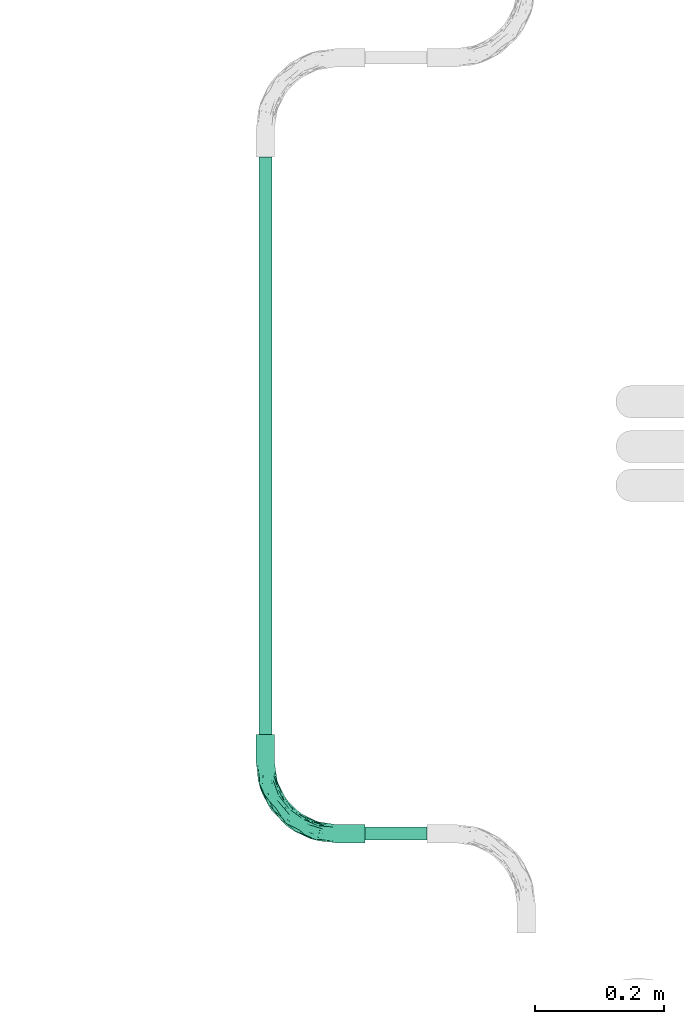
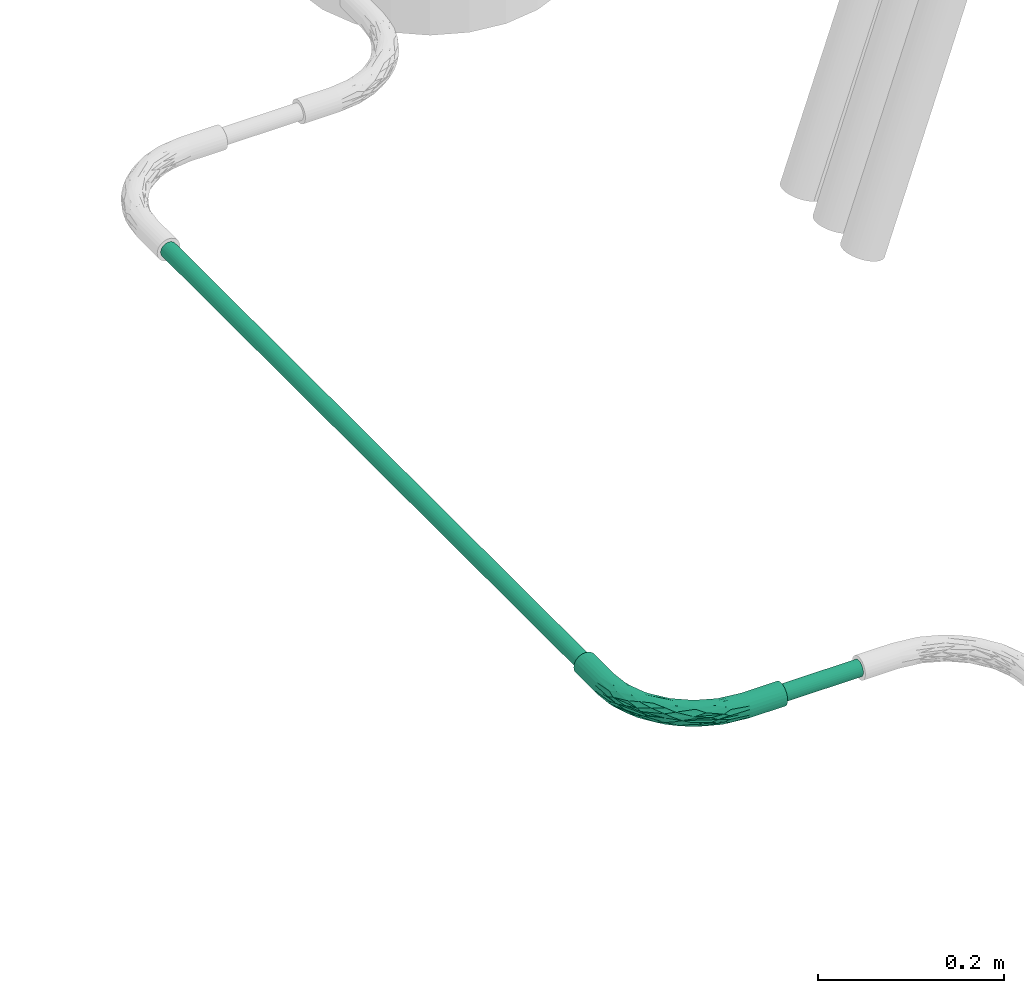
# One storey, part 23 of 51: 2 flow segments, 1 flow fitting.
"""IFC2X3 building model written with IfcOpenShell, lengths in millimetres."""

from ifc_helpers import new_model, entity, si_unit, converted_unit, derived_unit, direction, frame, origin_with_axes, origin_2d_with_axis, place, context, subcontext, project, spatial, hollow_circle, extrude, open_shell, surface_model, source, transform, mapped, type_object, element, save


model = new_model("IFC2X3")

# Units and contexts
model_context = context("Model", 3, precision=0.01, world=frame((0.0, 4.29681676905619e-09, 0.0)), true_north=direction((4.01073788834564e-13, 1.0)))
plan_context = context("Plan", 3, precision=0.01, world=frame((0.0, 4.29681676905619e-09, 0.0)), true_north=direction((4.01073788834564e-13, 1.0)))
body_context = subcontext(model_context, "Body", "Model", "MODEL_VIEW")
ifc_project = project(units=[converted_unit("PLANEANGLEUNIT", "DEGREE", entity("IfcPositiveLengthMeasure", 0.0174532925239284), si_unit("PLANEANGLEUNIT", "RADIAN"), dimensions=[0, 0, 0, 0, 0, 0, 0]), si_unit("AREAUNIT", "SQUARE_METRE"), si_unit("LENGTHUNIT", "METRE", prefix="MILLI"), si_unit("MASSUNIT", "GRAM", prefix="KILO"), si_unit("POWERUNIT", "WATT"), si_unit("PRESSUREUNIT", "PASCAL"), si_unit("FORCEUNIT", "NEWTON", prefix="KILO"), si_unit("ELECTRICVOLTAGEUNIT", "VOLT"), si_unit("ELECTRICCURRENTUNIT", "AMPERE"), si_unit("THERMODYNAMICTEMPERATUREUNIT", "DEGREE_CELSIUS"), si_unit("TIMEUNIT", "SECOND"), si_unit("VOLUMEUNIT", "CUBIC_METRE"), derived_unit("LINEARVELOCITYUNIT", [(si_unit("LENGTHUNIT", "METRE"), 1), (si_unit("TIMEUNIT", "SECOND"), -1)]), derived_unit("VOLUMETRICFLOWRATEUNIT", [(si_unit("VOLUMEUNIT", "CUBIC_METRE"), 1), (si_unit("TIMEUNIT", "SECOND"), -1)]), derived_unit("THERMALTRANSMITTANCEUNIT", [(si_unit("POWERUNIT", "WATT"), 1), (si_unit("THERMODYNAMICTEMPERATUREUNIT", "KELVIN"), -1), (si_unit("AREAUNIT", "SQUARE_METRE"), -1)]), derived_unit("SOUNDPRESSUREUNIT", [(si_unit("PRESSUREUNIT", "PASCAL"), 1)])], contexts=[model_context, plan_context])

# Site, building, storey
site_placement = place(None, frame((0.0, -4.29681676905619e-09, 0.0), z_axis=(0.0, 0.0, 1.0), x_axis=(1.0, 0.0, 0.0)))
site = spatial("IfcSite", under=ifc_project, at=site_placement, Name="ENGM", CompositionType="ELEMENT")
building_placement = place(site_placement, frame((0.0, 4.29681676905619e-09, 0.0), z_axis=(0.0, 0.0, 1.0), x_axis=(1.0, 0.0, 0.0)))
building = spatial("IfcBuilding", under=site, at=building_placement, Name="TI", CompositionType="ELEMENT")
storey_placement = place(building_placement, frame((0.0, 0.0, 210900.0), z_axis=(0.0, 0.0, 1.0), x_axis=(1.0, 0.0, 0.0)))
storey = spatial("IfcBuildingStorey", under=building, at=storey_placement, Name="Nivå F", CompositionType="ELEMENT", Elevation=210900.0)

# Flow fitting
cable_carrier_fitting_type = type_object("IfcCableCarrierFittingType", Name="Trekkerør, glatt bend", PredefinedType="BEND")
shared_shape_1 = source(origin_with_axes(), body_context, "Body", "SurfaceModel", [
    surface_model("IfcShellBasedSurfaceModel", [(-154.55625, 0.0, -14.27109), (-154.55625, -13.78482, -3.69363), (-154.55625, 3.69363, -13.78482), (-154.55625, 7.13555, -12.35913), (-154.55625, 12.35913, -7.13555), (-154.55625, -14.27109, 0.0), (-154.55625, 10.09119, -10.09119), (-154.55625, -13.78482, 3.69363), (-154.55625, -10.09119, -10.09119), (-154.55625, -12.35913, -7.13555), (-154.55625, -7.13555, -12.35913), (-154.55625, -3.69363, -13.78482), (-154.55625, 13.78482, -3.69363), (-154.55625, 14.27109, 0.0), (-154.55625, -12.35913, 7.13555), (-154.55625, 13.78482, 3.69363), (-154.55625, 12.35913, 7.13555), (-154.55625, 7.13555, 12.35913), (-154.55625, -3.69363, 13.78482), (-154.55625, 10.09119, 10.09119), (-154.55625, 3.69363, 13.78482), (-154.55625, 0.0, 14.27109), (-154.55625, -10.09119, 10.09119), (-154.55625, -7.13555, 12.35913), (-109.53828, -14.27109, 0.0), (-109.53828, -13.78482, 3.69363), (-109.53828, -12.35913, 7.13555), (-109.53828, -10.09119, 10.09119), (-109.53828, -7.13555, 12.35913), (-109.53828, -3.69363, 13.78482), (-109.53828, 0.0, 14.27109), (-109.53828, 3.69363, 13.78482), (-109.53828, 7.13555, 12.35913), (-109.53828, 10.09119, 10.09119), (-109.53828, 12.35913, 7.13555), (-109.53828, 13.78482, 3.69363), (-109.53828, 14.27109, 0.0), (-109.53828, 13.78482, -3.69363), (-109.53828, 12.35913, -7.13555), (-109.53828, 10.09119, -10.09119), (-109.53828, 7.13555, -12.35913), (-109.53828, 3.69363, -13.78482), (-109.53828, 0.0, -14.27109), (-109.53828, -3.69363, -13.78482), (-109.53828, -7.13555, -12.35913), (-109.53828, -10.09119, -10.09119), (-109.53828, -12.35913, -7.13555), (-109.53828, -13.78482, -3.69363), (-3.69363, 109.53828, 13.78482), (-7.1534, 89.99414, 13.24855), (-5.52615, 80.75509, 14.17919), (-60.76988, -1.31586, 8.35584), (-86.74719, -9.26979, 8.53701), (-78.43143, -9.27777, 5.21969), (-54.57322, 16.38341, 14.20456), (-37.47603, 23.87443, 14.06701), (-28.15284, 38.55475, 14.18707), (-61.24691, 4.75102, 13.02092), (-78.33811, -4.70928, 11.16152), (-49.9274, 6.84288, 10.90618), (-95.50078, -12.04777, 0.0), (-71.27908, -8.21143, 0.0), (-84.10609, -11.40642, 2.49425), (-84.40829, 4.61635, 14.17552), (-21.30634, 35.06714, 12.98487), (-25.5172, 25.5172, 10.83717), (-6.52074, 51.84045, 11.43645), (-14.9351, 49.72791, 14.07022), (-36.13298, 13.4524, 8.61377), (-48.07555, 3.07814, 4.93607), (-22.8399, 22.8399, 5.72655), (-61.42092, -4.26023, 2.69213), (-43.25505, 5.21821, 2.45459), (-76.37759, 10.60152, 13.29307), (-84.26876, 11.72213, 11.45557), (-16.10152, 32.64981, 8.49548), (-91.7629, 12.84689, 8.81067), (-78.89232, 2.16712, 14.11264), (-86.94002, -3.39666, 13.1113), (-53.54164, 32.46551, 0.0), (-80.0991, 18.9338, 0.0), (-65.27277, 24.4813, 4.15685), (-70.11513, 19.34285, 8.96525), (-58.85951, 26.77111, 6.9074), (-87.03749, 15.77002, 5.64275), (-7.13555, 109.53828, 12.35913), (-10.09119, 109.53828, 10.09119), (-12.24312, 82.27842, 11.46622), (-88.43996, 16.36335, 2.74565), (-0.11486, 73.25678, 13.06442), (7.13555, 109.53828, 12.35913), (3.69363, 109.53828, 13.78482), (-41.93843, 41.93843, 3.06688), (-41.06778, 41.06778, 6.49711), (-12.84689, 91.7629, 8.81067), (-12.35913, 109.53828, 7.13555), (5.39094, 64.47541, 3.19158), (-3.07814, 48.07555, 4.93607), (-3.51803, 45.96754, 2.3263), (-36.76496, 9.37439, 0.0), (-23.06967, 23.06967, 0.0), (0.0, 109.53828, 14.27109), (-0.81133, 84.32322, 14.11955), (-41.69927, 29.72188, 13.44421), (12.35913, 109.53828, 7.13555), (9.27777, 78.43143, 5.21969), (13.78482, 109.53828, 3.69363), (-57.22502, 11.42573, 14.17543), (9.26979, 86.74719, 8.53701), (1.31586, 60.76988, 8.35584), (5.72038, 82.4285, 11.18319), (11.40642, 84.10609, 2.49425), (-59.15779, 20.7896, 12.14962), (-18.9338, 80.0991, 0.0), (-32.46551, 53.54164, 0.0), (-24.4813, 65.27277, 4.15685), (-16.36335, 88.43996, 2.74565), (-14.27109, 109.53828, 0.0), (-8.62571, 53.03293, 12.89354), (-13.78482, 109.53828, 3.69363), (-15.77002, 87.03749, 5.64275), (-37.83174, 37.83174, 11.72896), (-22.74629, 58.47709, 11.20332), (-35.02355, 44.66648, 9.39592), (-51.28798, 28.82677, 10.17947), (-14.20714, 66.91103, 13.32458), (10.09119, 109.53828, 10.09119), (12.04777, 95.50078, 0.0), (-26.77111, 58.85951, 6.9074), (-19.34285, 70.11513, 8.96525), (-22.27171, 49.8428, 13.75381), (-14.02071, 58.08047, 14.23303), (-38.19919, 17.37508, 12.43121), (-25.3167, 50.04426, 12.74411), (-58.12909, 18.65185, 13.32115), (-15.5265, 29.44086, 2.9254), (-54.02202, 0.58148, 0.0), (-9.37439, 36.76496, 0.0), (-0.58148, 54.02202, 0.0), (8.21143, 71.27908, 0.0), (14.27109, 109.53828, 0.0), (-82.27842, 12.24312, -11.46622), (-16.38341, 54.57322, -14.20456), (-23.87443, 37.47603, -14.06701), (-38.55475, 28.15284, -14.18707), (-91.7629, 12.84689, -8.81067), (-24.4813, 65.27277, -4.15685), (-88.43996, 16.36335, -2.74565), (-65.27277, 24.4813, -4.15685), (-87.03749, 15.77002, -5.64275), (12.35913, 109.53828, -7.13555), (13.78482, 109.53828, -3.69363), (9.27777, 78.43143, -5.21969), (-84.10609, -11.40642, -2.49425), (-61.42092, -4.26023, -2.69213), (-41.93843, 41.93843, -3.06688), (-4.61635, 84.40829, -14.17552), (-3.69363, 109.53828, -13.78482), (0.0, 109.53828, -14.27109), (-48.07555, 3.07814, -4.93607), (-78.43143, -9.27777, -5.21969), (-60.76988, -1.31586, -8.35584), (-82.4285, -5.72038, -11.18319), (-51.84045, 6.52074, -11.43645), (-86.74719, -9.26979, -8.53701), (3.39666, 86.94002, -13.1113), (4.70928, 78.33811, -11.16152), (-4.75102, 61.24691, -13.02092), (-3.51803, 45.96754, -2.3263), (-15.5265, 29.44086, -2.9254), (-73.25678, 0.11486, -13.06442), (11.40642, 84.10609, -2.49425), (-84.32322, 0.81133, -14.11955), (-11.42573, 57.22502, -14.17543), (-3.07814, 48.07555, -4.93607), (1.31586, 60.76988, -8.35584), (-89.99414, 7.1534, -13.24855), (-10.60152, 76.37759, -13.29307), (-6.84288, 49.9274, -10.90618), (-2.16712, 78.89232, -14.11264), (-13.4524, 36.13298, -8.61377), (-25.5172, 25.5172, -10.83717), (-13.78482, 109.53828, -3.69363), (-16.36335, 88.43996, -2.74565), (3.69363, 109.53828, -13.78482), (-26.77111, 58.85951, -6.9074), (-15.77002, 87.03749, -5.64275), (-19.34285, 70.11513, -8.96525), (-12.35913, 109.53828, -7.13555), (-80.75509, 5.52615, -14.17919), (10.09119, 109.53828, -10.09119), (9.26979, 86.74719, -8.53701), (-10.09119, 109.53828, -10.09119), (-7.13555, 109.53828, -12.35913), (-11.72213, 84.26876, -11.45557), (-35.06714, 21.30634, -12.98487), (-32.64981, 16.10152, -8.49548), (-41.06778, 41.06777, -6.49711), (-29.72188, 41.69927, -13.44421), (7.13555, 109.53828, -12.35913), (-58.47709, 22.74629, -11.20332), (-66.91103, 14.20714, -13.32458), (-22.8399, 22.8399, -5.72655), (-49.72791, 14.9351, -14.07022), (-44.66648, 35.02355, -9.39592), (-28.82677, 51.28798, -10.17947), (-37.83174, 37.83174, -11.72896), (-20.7896, 59.15779, -12.14962), (-43.25505, 5.21821, -2.45459), (-53.03293, 8.62571, -12.89354), (-12.84689, 91.7629, -8.81067), (-58.85951, 26.77111, -6.9074), (-70.11513, 19.34285, -8.96525), (-49.8428, 22.27171, -13.75381), (-58.08047, 14.02071, -14.23303), (-17.37508, 38.19919, -12.43121), (-50.04426, 25.3167, -12.74411), (-18.65185, 58.12909, -13.32115), (5.39094, 64.47541, -3.19158), (-13.78482, 154.55625, -3.69363), (0.0, 154.55625, -14.27109), (-3.69363, 154.55625, -13.78482), (-12.35913, 154.55625, -7.13555), (-7.13555, 154.55625, -12.35913), (-10.09119, 154.55625, -10.09119), (14.27109, 154.55625, 0.0), (7.13555, 154.55625, -12.35913), (12.35913, 154.55625, -7.13555), (10.09119, 154.55625, -10.09119), (3.69363, 154.55625, -13.78482), (13.78482, 154.55625, -3.69363), (-14.27109, 154.55625, 0.0), (13.78482, 154.55625, 3.69363), (-13.78482, 154.55625, 3.69363), (-7.13555, 154.55625, 12.35913), (-12.35913, 154.55625, 7.13555), (-10.09119, 154.55625, 10.09119), (0.0, 154.55625, 14.27109), (-3.69363, 154.55625, 13.78482), (10.09119, 154.55625, 10.09119), (12.35913, 154.55625, 7.13555), (3.69363, 154.55625, 13.78482), (7.13555, 154.55625, 12.35913)], [open_shell([[[0, 1, 2]], [[3, 2, 4]], [[5, 4, 2]], [[6, 3, 4]], [[5, 7, 4]], [[8, 9, 10]], [[0, 11, 10]], [[9, 1, 10]], [[1, 0, 10]], [[2, 1, 5]], [[7, 12, 4]], [[13, 14, 15]], [[16, 15, 17]], [[17, 15, 18]], [[19, 16, 17]], [[20, 17, 21]], [[22, 18, 14]], [[13, 7, 14]], [[23, 18, 22]], [[14, 18, 15]], [[18, 21, 17]], [[12, 7, 13]], [[7, 24, 25]], [[26, 14, 25]], [[23, 27, 28]], [[26, 27, 22]], [[18, 28, 29]], [[24, 7, 5]], [[25, 14, 7]], [[26, 22, 14]], [[27, 23, 22]], [[18, 23, 28]], [[29, 21, 18]], [[29, 30, 21]], [[17, 31, 32]], [[33, 19, 32]], [[15, 34, 35]], [[33, 34, 16]], [[13, 35, 36]], [[31, 20, 30]], [[31, 17, 20]], [[30, 20, 21]], [[32, 19, 17]], [[33, 16, 19]], [[15, 16, 34]], [[35, 13, 15]], [[12, 36, 37]], [[38, 4, 37]], [[3, 39, 40]], [[38, 39, 6]], [[2, 40, 41]], [[36, 12, 13]], [[37, 4, 12]], [[38, 6, 4]], [[39, 3, 6]], [[2, 3, 40]], [[41, 0, 2]], [[41, 42, 0]], [[10, 43, 44]], [[45, 8, 44]], [[1, 46, 47]], [[45, 46, 9]], [[5, 47, 24]], [[43, 11, 42]], [[43, 10, 11]], [[42, 11, 0]], [[44, 8, 10]], [[45, 9, 8]], [[1, 9, 46]], [[47, 5, 1]], [[48, 49, 50]], [[51, 52, 53]], [[54, 55, 56]], [[57, 58, 59]], [[60, 61, 62]], [[63, 31, 30]], [[58, 28, 27]], [[25, 60, 62]], [[64, 65, 66]], [[27, 52, 58]], [[67, 55, 64]], [[68, 69, 70]], [[71, 72, 69]], [[31, 73, 32]], [[26, 25, 53]], [[33, 32, 74]], [[75, 65, 68]], [[34, 33, 76]], [[77, 29, 78]], [[53, 69, 51]], [[79, 80, 81]], [[82, 83, 84]], [[85, 86, 87]], [[36, 35, 88]], [[35, 34, 84]], [[89, 90, 91]], [[92, 81, 93]], [[94, 86, 95]], [[28, 78, 29]], [[96, 97, 98]], [[99, 100, 72]], [[29, 77, 30]], [[101, 50, 102]], [[59, 58, 51]], [[54, 56, 103]], [[101, 102, 91]], [[104, 105, 106]], [[85, 49, 48]], [[107, 57, 55]], [[105, 104, 108]], [[97, 105, 109]], [[89, 110, 90]], [[68, 65, 59]], [[111, 106, 105]], [[63, 54, 73]], [[112, 82, 74]], [[113, 114, 115]], [[92, 115, 114]], [[77, 63, 30]], [[113, 116, 117]], [[48, 50, 101]], [[27, 26, 52]], [[64, 66, 118]], [[95, 119, 120]], [[116, 115, 120]], [[114, 79, 92]], [[121, 122, 123]], [[123, 124, 121]], [[122, 125, 87]], [[87, 86, 94]], [[109, 110, 66]], [[74, 32, 73]], [[90, 110, 126]], [[104, 126, 108]], [[78, 58, 57]], [[121, 112, 103]], [[75, 97, 109]], [[106, 111, 127]], [[84, 88, 35]], [[83, 93, 81]], [[93, 128, 115]], [[94, 120, 129]], [[125, 130, 131]], [[102, 67, 89]], [[122, 87, 129]], [[49, 87, 125]], [[66, 110, 89]], [[108, 110, 109]], [[118, 67, 64]], [[66, 65, 75]], [[112, 74, 73]], [[76, 74, 82]], [[63, 77, 107]], [[73, 31, 63]], [[102, 50, 131]], [[89, 91, 102]], [[67, 56, 55]], [[65, 132, 59]], [[107, 55, 54]], [[132, 55, 57]], [[131, 50, 125]], [[125, 122, 133]], [[134, 54, 103]], [[112, 121, 124]], [[134, 112, 73]], [[133, 130, 125]], [[53, 62, 71]], [[70, 69, 72]], [[97, 70, 135]], [[97, 135, 98]], [[84, 34, 76]], [[88, 81, 80]], [[116, 120, 119]], [[120, 115, 128]], [[81, 92, 79]], [[115, 92, 93]], [[58, 78, 28]], [[77, 78, 57]], [[53, 52, 26]], [[58, 52, 51]], [[110, 108, 126]], [[105, 108, 109]], [[68, 59, 51]], [[65, 64, 132]], [[69, 68, 51]], [[75, 68, 70]], [[97, 75, 70]], [[66, 75, 109]], [[87, 49, 85]], [[50, 49, 125]], [[129, 128, 123]], [[122, 121, 133]], [[129, 123, 122]], [[83, 124, 123]], [[83, 123, 93]], [[112, 124, 82]], [[121, 103, 133]], [[130, 103, 56]], [[103, 130, 133]], [[130, 56, 131]], [[56, 67, 131]], [[102, 131, 67]], [[81, 88, 84]], [[36, 88, 80]], [[117, 116, 119]], [[115, 116, 113]], [[55, 132, 64]], [[57, 59, 132]], [[25, 24, 60]], [[71, 62, 61]], [[25, 62, 53]], [[136, 99, 72]], [[53, 71, 69]], [[72, 71, 136]], [[137, 135, 100]], [[100, 135, 72]], [[135, 137, 98]], [[72, 135, 70]], [[98, 137, 138]], [[139, 111, 96]], [[71, 61, 136]], [[96, 138, 139]], [[127, 111, 139]], [[127, 140, 106]], [[96, 111, 105]], [[97, 96, 105]], [[96, 98, 138]], [[74, 76, 33]], [[84, 76, 82]], [[120, 94, 95]], [[87, 94, 129]], [[84, 83, 81]], [[124, 83, 82]], [[123, 128, 93]], [[120, 128, 129]], [[66, 89, 118]], [[67, 118, 89]], [[63, 107, 54]], [[57, 107, 77]], [[54, 134, 73]], [[103, 112, 134]], [[39, 141, 40]], [[142, 143, 144]], [[141, 39, 145]], [[114, 113, 146]], [[147, 148, 149]], [[150, 151, 152]], [[80, 147, 36]], [[61, 153, 154]], [[80, 79, 148]], [[155, 148, 79]], [[156, 157, 158]], [[37, 149, 38]], [[159, 160, 161]], [[161, 162, 163]], [[160, 46, 164]], [[165, 166, 167]], [[153, 47, 160]], [[168, 137, 169]], [[162, 44, 170]], [[151, 127, 171]], [[172, 43, 42]], [[173, 167, 143]], [[46, 160, 47]], [[44, 43, 170]], [[152, 174, 175]], [[45, 164, 46]], [[41, 40, 176]], [[156, 142, 177]], [[178, 166, 175]], [[179, 156, 158]], [[79, 114, 155]], [[180, 181, 178]], [[117, 182, 183]], [[184, 179, 158]], [[185, 186, 187]], [[188, 186, 182]], [[41, 176, 189]], [[190, 150, 191]], [[192, 193, 194]], [[195, 181, 163]], [[184, 165, 179]], [[44, 162, 45]], [[196, 181, 180]], [[146, 197, 155]], [[142, 144, 198]], [[165, 184, 199]], [[166, 190, 191]], [[200, 201, 141]], [[157, 177, 193]], [[174, 202, 180]], [[190, 166, 199]], [[143, 195, 203]], [[166, 178, 167]], [[204, 205, 206]], [[171, 127, 139]], [[41, 189, 42]], [[206, 207, 198]], [[152, 175, 191]], [[194, 193, 177]], [[208, 202, 169]], [[206, 200, 204]], [[172, 42, 189]], [[195, 163, 209]], [[210, 188, 192]], [[207, 187, 194]], [[145, 39, 38]], [[196, 159, 161]], [[47, 153, 60]], [[186, 183, 182]], [[185, 197, 146]], [[197, 211, 148]], [[145, 149, 212]], [[201, 213, 214]], [[172, 203, 170]], [[200, 141, 212]], [[176, 141, 201]], [[163, 162, 170]], [[164, 162, 161]], [[209, 203, 195]], [[163, 181, 196]], [[207, 194, 177]], [[210, 194, 187]], [[156, 179, 173]], [[177, 157, 156]], [[172, 189, 214]], [[170, 43, 172]], [[203, 144, 143]], [[181, 215, 178]], [[173, 143, 142]], [[215, 143, 167]], [[214, 189, 201]], [[201, 200, 216]], [[217, 142, 198]], [[207, 206, 205]], [[217, 207, 177]], [[216, 213, 201]], [[152, 171, 218]], [[202, 174, 169]], [[100, 208, 169]], [[208, 136, 154]], [[186, 188, 210]], [[183, 146, 113]], [[147, 149, 37]], [[149, 148, 211]], [[146, 155, 114]], [[148, 155, 197]], [[166, 165, 199]], [[179, 165, 167]], [[152, 191, 150]], [[166, 191, 175]], [[162, 164, 45]], [[160, 164, 161]], [[180, 178, 175]], [[181, 195, 215]], [[174, 180, 175]], [[196, 180, 202]], [[159, 196, 202]], [[163, 196, 161]], [[141, 176, 40]], [[189, 176, 201]], [[212, 211, 204]], [[200, 206, 216]], [[212, 204, 200]], [[185, 205, 204]], [[185, 204, 197]], [[207, 205, 187]], [[206, 198, 216]], [[213, 198, 144]], [[198, 213, 216]], [[213, 144, 214]], [[144, 203, 214]], [[172, 214, 203]], [[146, 183, 186]], [[117, 183, 113]], [[36, 147, 37]], [[148, 147, 80]], [[143, 215, 195]], [[167, 178, 215]], [[60, 153, 61]], [[60, 24, 47]], [[154, 160, 159]], [[160, 154, 153]], [[208, 154, 159]], [[202, 208, 159]], [[151, 140, 127]], [[100, 169, 137]], [[99, 208, 100]], [[168, 169, 174]], [[218, 174, 152]], [[218, 138, 168]], [[136, 208, 99]], [[138, 137, 168]], [[136, 61, 154]], [[139, 138, 218]], [[151, 171, 152]], [[139, 218, 171]], [[174, 218, 168]], [[194, 210, 192]], [[186, 210, 187]], [[149, 145, 38]], [[141, 145, 212]], [[186, 185, 146]], [[205, 185, 187]], [[204, 211, 197]], [[149, 211, 212]], [[163, 170, 209]], [[203, 209, 170]], [[156, 173, 142]], [[167, 173, 179]], [[142, 217, 177]], [[198, 207, 217]], [[219, 220, 221]], [[222, 221, 223]], [[222, 219, 221]], [[222, 223, 224]], [[220, 219, 225]], [[226, 227, 228]], [[226, 229, 220]], [[226, 230, 227]], [[226, 220, 230]], [[225, 230, 220]], [[219, 231, 225]], [[232, 225, 233]], [[234, 233, 235]], [[232, 233, 234]], [[234, 235, 236]], [[237, 234, 238]], [[232, 239, 240]], [[239, 232, 241]], [[239, 241, 242]], [[232, 234, 241]], [[234, 237, 241]], [[233, 225, 231]], [[106, 225, 232]], [[240, 104, 232]], [[90, 239, 242]], [[240, 239, 126]], [[91, 242, 241]], [[225, 106, 140]], [[232, 104, 106]], [[240, 126, 104]], [[239, 90, 126]], [[91, 90, 242]], [[241, 101, 91]], [[241, 237, 101]], [[85, 238, 234]], [[236, 86, 234]], [[119, 235, 233]], [[236, 235, 95]], [[117, 233, 231]], [[238, 48, 237]], [[238, 85, 48]], [[237, 48, 101]], [[234, 86, 85]], [[236, 95, 86]], [[119, 95, 235]], [[233, 117, 119]], [[182, 231, 219]], [[222, 188, 219]], [[193, 224, 223]], [[222, 224, 192]], [[157, 223, 221]], [[231, 182, 117]], [[219, 188, 182]], [[222, 192, 188]], [[224, 193, 192]], [[157, 193, 223]], [[221, 158, 157]], [[221, 220, 158]], [[199, 229, 226]], [[228, 190, 226]], [[151, 227, 230]], [[228, 227, 150]], [[140, 230, 225]], [[229, 184, 220]], [[229, 199, 184]], [[220, 184, 158]], [[226, 190, 199]], [[228, 150, 190]], [[151, 150, 227]], [[230, 140, 151]]])]),
])
flow_fitting_placement = place(storey_placement, frame((611382.66348, 697393.2805, -110.0), z_axis=(0.0, 0.0, 1.0), x_axis=(0.0, -1.0, 0.0)))
element("IfcFlowFitting", 1, at=flow_fitting_placement, inside=storey, type_object=cable_carrier_fitting_type, Name="Trekkerør, glatt bend", context=body_context, shape_type="MappedRepresentation", body=[
    mapped(shared_shape_1, transform((0.0, 0.0, 0.0), scale=1.0)),
])

# Flow segments
cable_carrier_segment_type = type_object("IfcCableCarrierSegmentType", Name="Trekkerør, korrugert", PredefinedType="CONDUITSEGMENT")
shared_shape_2 = source(origin_with_axes(), body_context, "Body", "SweptSolid", [
    extrude(hollow_circle(Radius=10.0, WallThickness=2.0, at=origin_2d_with_axis()), frame((0.0, 0.0, 0.0), z_axis=(1.0, 0.0, 0.0), x_axis=(0.0, 1.0, 0.0)), (0.0, 0.0, 1.0), 96.6),
])
flow_segment_1_placement = place(storey_placement, frame((611633.83154, 697393.2805, -110.0), z_axis=(0.0, 0.0, 1.0), x_axis=(-1.0, 0.0, 0.0)))
element("IfcFlowSegment", 2, at=flow_segment_1_placement, inside=storey, type_object=cable_carrier_segment_type, Name="Trekkerør, korrugert", context=body_context, shape_type="MappedRepresentation", body=[
    mapped(shared_shape_2, transform((0.0, 0.0, 0.0), scale=1.0)),
])
shared_shape_3 = source(origin_with_axes(), body_context, "Body", "SweptSolid", [
    extrude(hollow_circle(Radius=10.0, WallThickness=2.0, at=origin_2d_with_axis()), frame((0.0, 0.0, 0.0), z_axis=(1.0, 0.0, 0.0), x_axis=(0.0, 1.0, 0.0)), (0.0, 0.0, 1.0), 897.5),
])
flow_segment_2_placement = place(storey_placement, frame((611382.66348, 697547.83675, -110.0), z_axis=(0.0, 0.0, 1.0), x_axis=(0.0, 1.0, 0.0)))
element("IfcFlowSegment", 3, at=flow_segment_2_placement, inside=storey, type_object=cable_carrier_segment_type, Name="Trekkerør, korrugert", context=body_context, shape_type="MappedRepresentation", body=[
    mapped(shared_shape_3, transform((0.0, 0.0, 0.0), scale=1.0)),
])

save(model, "model.ifc")
